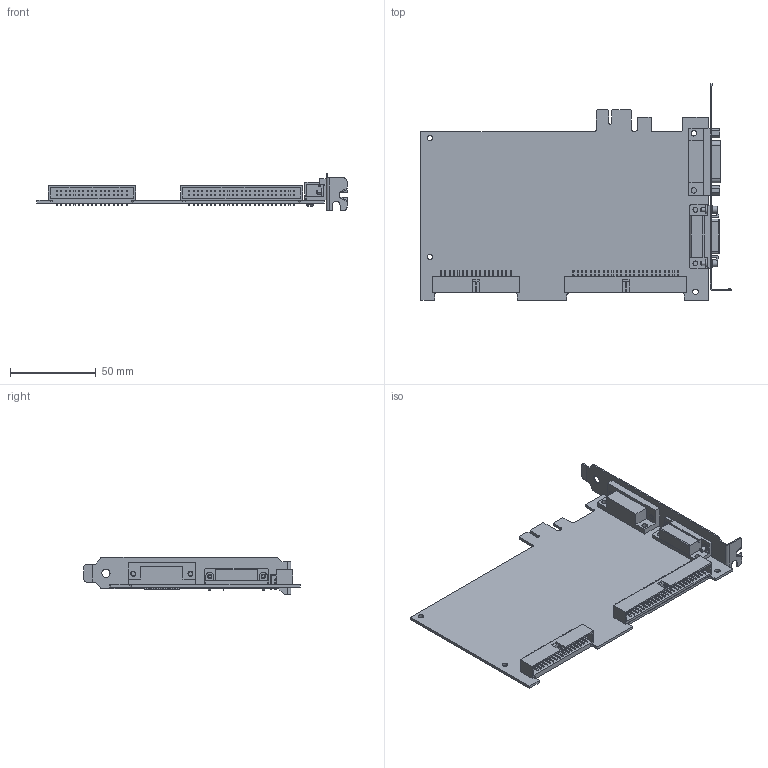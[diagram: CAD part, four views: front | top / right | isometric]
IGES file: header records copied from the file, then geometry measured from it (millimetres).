
Start section:  PTC IGES file: cu_pcie-1427.igs
Global section: file name: cu_pcie-1427.igs; native system: Pro/ENGINEER by Parametric Technology Corporation; preprocessor: 2010230; author: dkendric; organization: Unknown; date: 20110816.111012; units: inch
Bounding box: 180.94 x 126.31 x 21.59 mm (x, y, z)
Surface area: 48411.7 mm2 (no closed solid volume)
Topology: 0 solids, 0 shells, 1912 faces, 10368 edges, 10364 vertices
Faces by surface type: bspline 1509, revolution 403
